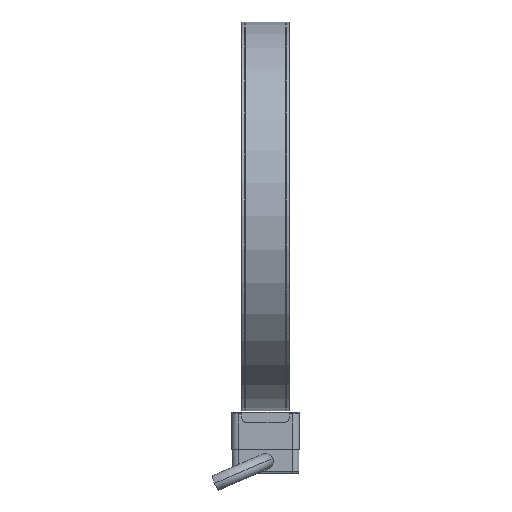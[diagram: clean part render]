
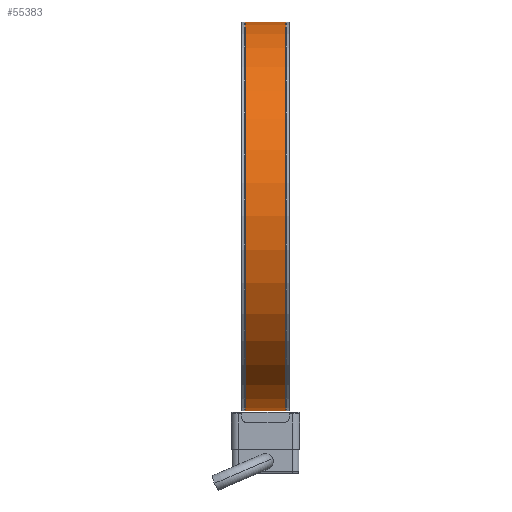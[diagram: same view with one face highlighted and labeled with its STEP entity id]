
A CAD part, left-side view. The second image highlights one B-rep face of the part: STEP entity #55383.
In plain terms, the highlighted cylindrical face has radius 57 mm (diameter 114 mm), a partial arc.
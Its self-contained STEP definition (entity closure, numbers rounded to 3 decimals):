
#5549 = CARTESIAN_POINT ( 'NONE',  ( 0., 1., 0. ) ) ;
#7962 = EDGE_CURVE ( 'NONE', #21979, #49712, #66461, .T. ) ;
#9452 = DIRECTION ( 'NONE',  ( 0., 1., 0. ) ) ;
#11703 = VECTOR ( 'NONE', #37485, 1000. ) ;
#14308 = DIRECTION ( 'NONE',  ( 0., 1., 0. ) ) ;
#20983 = CARTESIAN_POINT ( 'NONE',  ( 0., -15., -57. ) ) ;
#21979 = VERTEX_POINT ( 'NONE', #70127 ) ;
#25599 = CIRCLE ( 'NONE', #46024, 57. ) ;
#26049 = ORIENTED_EDGE ( 'NONE', *, *, #35800, .T. ) ;
#26225 = ORIENTED_EDGE ( 'NONE', *, *, #101779, .F. ) ;
#28271 = CARTESIAN_POINT ( 'NONE',  ( 0., 13., 57. ) ) ;
#29246 = DIRECTION ( 'NONE',  ( 0., 0., 1. ) ) ;
#29307 = DIRECTION ( 'NONE',  ( 0., -1., 0. ) ) ;
#30312 = FACE_OUTER_BOUND ( 'NONE', #90450, .T. ) ;
#31883 = AXIS2_PLACEMENT_3D ( 'NONE', #78720, #14308, #29246 ) ;
#35800 = EDGE_CURVE ( 'NONE', #60009, #21979, #80268, .T. ) ;
#37485 = DIRECTION ( 'NONE',  ( 0., 1., 0. ) ) ;
#38043 = DIRECTION ( 'NONE',  ( 0., 1., 0. ) ) ;
#44091 = EDGE_CURVE ( 'NONE', #49712, #53933, #25599, .T. ) ;
#44731 = ORIENTED_EDGE ( 'NONE', *, *, #7962, .T. ) ;
#46024 = AXIS2_PLACEMENT_3D ( 'NONE', #77755, #29307, #72301 ) ;
#49712 = VERTEX_POINT ( 'NONE', #28271 ) ;
#53933 = VERTEX_POINT ( 'NONE', #55598 ) ;
#55383 = ADVANCED_FACE ( 'NONE', ( #30312 ), #79764, .T. ) ;
#55598 = CARTESIAN_POINT ( 'NONE',  ( 0., 13., -57. ) ) ;
#60009 = VERTEX_POINT ( 'NONE', #72559 ) ;
#66461 = LINE ( 'NONE', #95270, #96716 ) ;
#70127 = CARTESIAN_POINT ( 'NONE',  ( 0., 1., 57. ) ) ;
#72301 = DIRECTION ( 'NONE',  ( 0., 0., -1. ) ) ;
#72559 = CARTESIAN_POINT ( 'NONE',  ( 0., 1., -57. ) ) ;
#77755 = CARTESIAN_POINT ( 'NONE',  ( 0., 13., 0. ) ) ;
#78720 = CARTESIAN_POINT ( 'NONE',  ( 0., -15., 0. ) ) ;
#79379 = ORIENTED_EDGE ( 'NONE', *, *, #44091, .T. ) ;
#79529 = DIRECTION ( 'NONE',  ( 0., 0., 1. ) ) ;
#79764 = CYLINDRICAL_SURFACE ( 'NONE', #31883, 57. ) ;
#80268 = CIRCLE ( 'NONE', #93819, 57. ) ;
#90450 = EDGE_LOOP ( 'NONE', ( #26225, #26049, #44731, #79379 ) ) ;
#93819 = AXIS2_PLACEMENT_3D ( 'NONE', #5549, #38043, #79529 ) ;
#93842 = LINE ( 'NONE', #20983, #11703 ) ;
#95270 = CARTESIAN_POINT ( 'NONE',  ( 0., -15., 57. ) ) ;
#96716 = VECTOR ( 'NONE', #9452, 1000. ) ;
#101779 = EDGE_CURVE ( 'NONE', #60009, #53933, #93842, .T. ) ;
